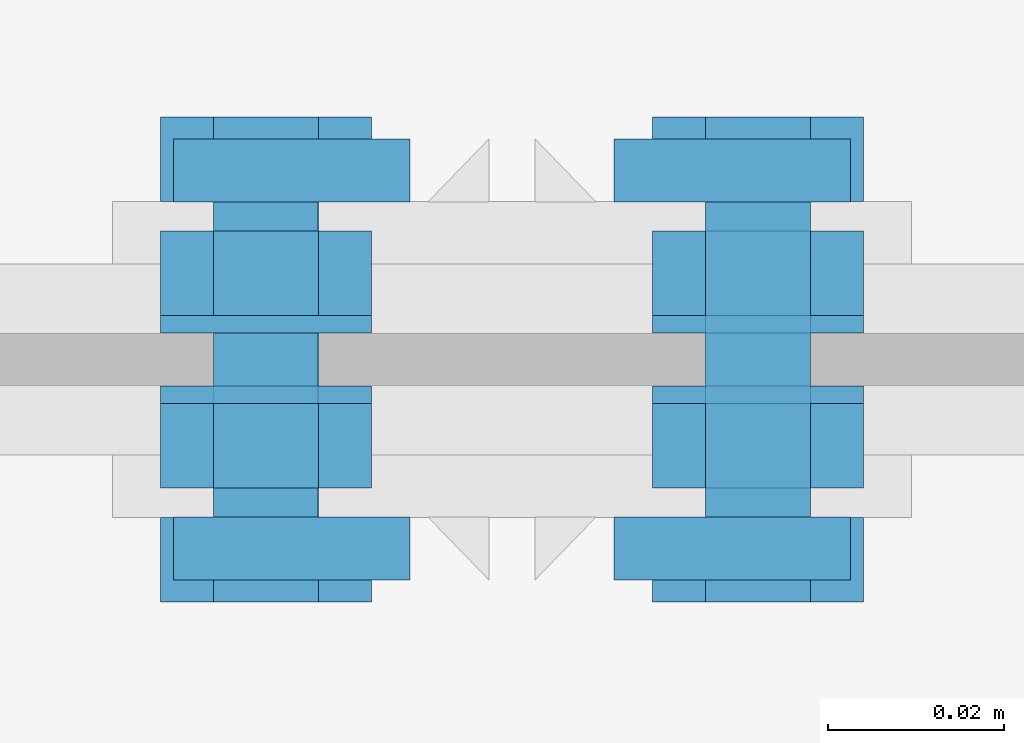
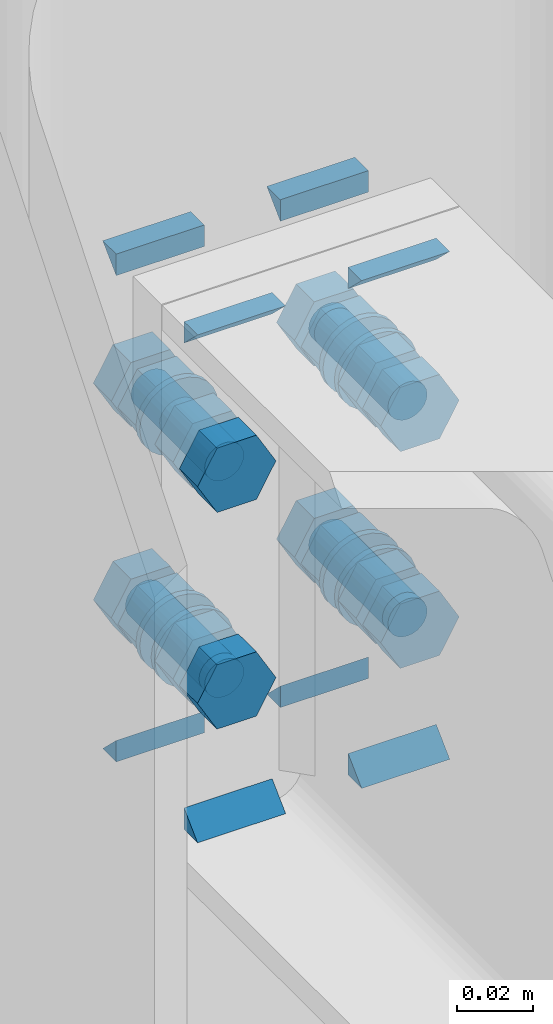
# One storey, part 71 of 251: 31 mechanical fasteners, 16 fasteners.
"""IFC4 building model written with IfcOpenShell, lengths in metres."""

from ifc_helpers import new_model, si_unit, frame, origin_with_axes, place, context, project, spatial, polyline, outline, extrude, type_object, element, save


model = new_model("IFC4")

# Units and contexts
model_context = context("Model", 3, precision=1e-05, world=origin_with_axes())
ifc_project = project(units=[si_unit("LENGTHUNIT", "METRE"), si_unit("AREAUNIT", "SQUARE_METRE"), si_unit("VOLUMEUNIT", "CUBIC_METRE"), si_unit("MASSUNIT", "GRAM", prefix="KILO"), si_unit("TIMEUNIT", "SECOND"), si_unit("PLANEANGLEUNIT", "RADIAN"), si_unit("SOLIDANGLEUNIT", "STERADIAN"), si_unit("THERMODYNAMICTEMPERATUREUNIT", "DEGREE_CELSIUS")], contexts=[model_context])

# Site, building, storey
placement_1 = place(None, origin_with_axes())
site = spatial("IfcSite", under=ifc_project, at=placement_1, Name="Italia", CompositionType="ELEMENT")
building = spatial("IfcBuilding", under=site, at=placement_1, Name="Deposito", CompositionType="ELEMENT")
storey = spatial("IfcBuildingStorey", under=building, at=placement_1, Name="Storey 0", CompositionType="ELEMENT", Elevation=0.0)

# Fasteners
fastener_type_1 = type_object("IfcFastenerType", Name="Collegamento -070_-069", PredefinedType="WELD")
placement_2 = place(placement_1, origin_with_axes())
fastener_1_placement = place(placement_2, origin_with_axes())
element("IfcFastener", 1, at=fastener_1_placement, inside=storey, type_object=fastener_type_1, Name="Collegamento -070_-069", context=model_context, shape_type="SweptSolid", body=[
    extrude(outline(polyline([(0.0, 0.0), (-0.00717354, 0.00695801), (0.0, 0.00695801), (0.0, 0.0)])), frame((6.01145, 4.98205, 6.89527), z_axis=(1.0, 0.0, 0.0), x_axis=(0.0, 1.0, 0.0)), (0.0, 0.0, 1.0), 0.0269499),
])
fastener_type_2 = type_object("IfcFastenerType", Name="Collegamento -070_-069", PredefinedType="WELD")
fastener_2_placement = place(placement_2, origin_with_axes())
element("IfcFastener", 2, at=fastener_2_placement, inside=storey, type_object=fastener_type_2, Name="Collegamento -070_-069", context=model_context, shape_type="SweptSolid", body=[
    extrude(outline(polyline([(0.0, 0.0), (0.00717354, -0.00695801), (0.0, -0.00695801), (0.0, 0.0)])), frame((6.0384, 4.98205, 6.74509), z_axis=(-1.0, 0.0, 0.0), x_axis=(0.0, -1.0, 0.0)), (0.0, 0.0, 1.0), 0.0269499),
])
fastener_type_3 = type_object("IfcFastenerType", Name="Collegamento -070_-069", PredefinedType="WELD")
fastener_3_placement = place(placement_2, origin_with_axes())
element("IfcFastener", 3, at=fastener_3_placement, inside=storey, type_object=fastener_type_3, Name="Collegamento -070_-069", context=model_context, shape_type="SweptSolid", body=[
    extrude(outline(polyline([(0.0, 0.0), (0.00717354, -0.00695801), (0.0, -0.00695801), (0.0, 0.0)])), frame((6.08855, 4.98205, 6.74509), z_axis=(-1.0, 0.0, 0.0), x_axis=(0.0, -1.0, 0.0)), (0.0, 0.0, 1.0), 0.0269499),
])
fastener_type_4 = type_object("IfcFastenerType", Name="Collegamento -070_-069", PredefinedType="WELD")
fastener_4_placement = place(placement_2, origin_with_axes())
element("IfcFastener", 4, at=fastener_4_placement, inside=storey, type_object=fastener_type_4, Name="Collegamento -070_-069", context=model_context, shape_type="SweptSolid", body=[
    extrude(outline(polyline([(0.0, 0.0), (-0.00717354, 0.00695801), (0.0, 0.00695801), (0.0, 0.0)])), frame((6.0616, 4.98205, 6.89527), z_axis=(1.0, 0.0, 0.0), x_axis=(0.0, 1.0, 0.0)), (0.0, 0.0, 1.0), 0.0269499),
])
fastener_type_5 = type_object("IfcFastenerType", Name="Collegamento -070_-069", PredefinedType="WELD")
fastener_5_placement = place(placement_2, origin_with_axes())
element("IfcFastener", 5, at=fastener_5_placement, inside=storey, type_object=fastener_type_5, Name="Collegamento -070_-069", context=model_context, shape_type="SweptSolid", body=[
    extrude(outline(polyline([(0.0, 0.0), (-0.00717354, 0.00695801), (0.0, 0.00695801), (0.0, 0.0)])), frame((6.01145, 4.98205, 6.89527), z_axis=(1.0, 0.0, 0.0), x_axis=(0.0, 1.0, 0.0)), (0.0, 0.0, 1.0), 0.0269499),
])
fastener_type_6 = type_object("IfcFastenerType", Name="Collegamento -070_-069", PredefinedType="WELD")
fastener_6_placement = place(placement_2, origin_with_axes())
element("IfcFastener", 6, at=fastener_6_placement, inside=storey, type_object=fastener_type_6, Name="Collegamento -070_-069", context=model_context, shape_type="SweptSolid", body=[
    extrude(outline(polyline([(0.0, 0.0), (0.00717354, -0.00695801), (0.0, -0.00695801), (0.0, 0.0)])), frame((6.0384, 4.98205, 6.74509), z_axis=(-1.0, 0.0, 0.0), x_axis=(0.0, -1.0, 0.0)), (0.0, 0.0, 1.0), 0.0269499),
])
fastener_type_7 = type_object("IfcFastenerType", Name="Collegamento -070_-069", PredefinedType="WELD")
fastener_7_placement = place(placement_2, origin_with_axes())
element("IfcFastener", 7, at=fastener_7_placement, inside=storey, type_object=fastener_type_7, Name="Collegamento -070_-069", context=model_context, shape_type="SweptSolid", body=[
    extrude(outline(polyline([(0.0, 0.0), (0.00717354, -0.00695801), (0.0, -0.00695801), (0.0, 0.0)])), frame((6.08855, 4.98205, 6.74509), z_axis=(-1.0, 0.0, 0.0), x_axis=(0.0, -1.0, 0.0)), (0.0, 0.0, 1.0), 0.0269499),
])
fastener_type_8 = type_object("IfcFastenerType", Name="Collegamento -070_-069", PredefinedType="WELD")
fastener_8_placement = place(placement_2, origin_with_axes())
element("IfcFastener", 8, at=fastener_8_placement, inside=storey, type_object=fastener_type_8, Name="Collegamento -070_-069", context=model_context, shape_type="SweptSolid", body=[
    extrude(outline(polyline([(0.0, 0.0), (-0.00717354, 0.00695801), (0.0, 0.00695801), (0.0, 0.0)])), frame((6.0616, 4.98205, 6.89527), z_axis=(1.0, 0.0, 0.0), x_axis=(0.0, 1.0, 0.0)), (0.0, 0.0, 1.0), 0.0269499),
])

# Mechanical fasteners
mechanical_fastener_type_1 = type_object("IfcMechanicalFastenerType", Name="Collegamento -070_-069", PredefinedType="BOLT")
mechanical_fastener_1_placement = place(placement_2, origin_with_axes())
element("IfcMechanicalFastener", 9, at=mechanical_fastener_1_placement, inside=storey, type_object=mechanical_fastener_type_1, Name="Collegamento -070_-069", NominalDiameter=0.0119999, context=model_context, shape_type="SweptSolid", body=[
    extrude(outline(polyline([(0.0, 0.0), (-0.0120001, 0.0), (-0.0180001, 0.0103927), (-0.0120001, 0.0207849), (0.0, 0.0207849), (0.00600004, 0.0103927), (0.0, 0.0)])), frame((6.028, 4.982, 6.77479), z_axis=(0.0, -1.0, 0.0), x_axis=(1.0, 0.0, 0.0)), (0.0, 0.0, 1.0), 0.00960016),
])
mechanical_fastener_type_2 = type_object("IfcMechanicalFastenerType", Name="Collegamento -070_-069", PredefinedType="BOLT")
mechanical_fastener_2_placement = place(placement_2, origin_with_axes())
element("IfcMechanicalFastener", 10, at=mechanical_fastener_2_placement, inside=storey, type_object=mechanical_fastener_type_2, Name="Collegamento -070_-069", NominalDiameter=0.012, context=model_context, shape_type="SweptSolid", body=[
    extrude(outline(polyline([(0.0, 0.0), (-0.000204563, -0.00155306), (-0.000803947, -0.00299978), (-0.00175762, -0.00424242), (-0.00300026, -0.00519609), (-0.00444698, -0.00579548), (-0.00600004, -0.00600004), (-0.0075531, -0.00579548), (-0.00899982, -0.00519609), (-0.0102425, -0.00424242), (-0.0111961, -0.00299978), (-0.0117955, -0.00155306), (-0.0120001, 0.0), (-0.0117955, 0.00155306), (-0.0111961, 0.00299978), (-0.0102425, 0.00424242), (-0.00899982, 0.00519609), (-0.0075531, 0.00579548), (-0.00600004, 0.00600004), (-0.00444698, 0.00579548), (-0.00300026, 0.00519609), (-0.00175762, 0.00424242), (-0.000803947, 0.00299978), (-0.000204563, 0.00155306), (0.0, 0.0)])), frame((6.028, 5.021, 6.78518), z_axis=(0.0, -1.0, 0.0), x_axis=(1.0, 0.0, 0.0)), (0.0, 0.0, 1.0), 0.039),
])
mechanical_fastener_type_3 = type_object("IfcMechanicalFastenerType", Name="Collegamento -070_-069", PredefinedType="BOLT")
mechanical_fastener_3_placement = place(placement_2, origin_with_axes())
element("IfcMechanicalFastener", 11, at=mechanical_fastener_3_placement, inside=storey, type_object=mechanical_fastener_type_3, Name="Collegamento -070_-069", NominalDiameter=0.0119999, context=model_context, shape_type="SweptSolid", body=[
    extrude(outline(polyline([(0.0, 0.0), (-0.0120001, 0.0), (-0.0180001, 0.0103927), (-0.0120001, 0.0207849), (0.0, 0.0207849), (0.00600004, 0.0103927), (0.0, 0.0)])), frame((6.028, 5.0146, 6.77479), z_axis=(0.0, -1.0, 0.0), x_axis=(1.0, 0.0, 0.0)), (0.0, 0.0, 1.0), 0.00960016),
])
mechanical_fastener_type_4 = type_object("IfcMechanicalFastenerType", Name="Collegamento -070_-069", PredefinedType="BOLT")
mechanical_fastener_4_placement = place(placement_2, origin_with_axes())
element("IfcMechanicalFastener", 12, at=mechanical_fastener_4_placement, inside=storey, type_object=mechanical_fastener_type_4, Name="Collegamento -070_-069", NominalDiameter=0.024, context=model_context, shape_type="SweptSolid", body=[
    extrude(outline(polyline([(0.0, 0.0), (-0.000409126, -0.00310564), (-0.00160789, -0.00600004), (-0.00351477, -0.00848532), (-0.00600004, -0.0103922), (-0.00889444, -0.011591), (-0.0120001, -0.0120001), (-0.0151057, -0.011591), (-0.0180001, -0.0103922), (-0.0204854, -0.00848532), (-0.0223923, -0.00600004), (-0.023591, -0.00310564), (-0.0240002, 0.0), (-0.023591, 0.00310564), (-0.0223923, 0.00600004), (-0.0204854, 0.00848532), (-0.0180001, 0.0103922), (-0.0151057, 0.011591), (-0.0120001, 0.0120001), (-0.00889444, 0.011591), (-0.00600004, 0.0103922), (-0.00351477, 0.00848532), (-0.00160789, 0.00600004), (-0.000409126, 0.00310564), (0.0, 0.0)])), frame((6.034, 5.005, 6.78518), z_axis=(0.0, -1.0, 0.0), x_axis=(1.0, 0.0, 0.0)), (0.0, 0.0, 1.0), 0.00199986),
])
mechanical_fastener_type_5 = type_object("IfcMechanicalFastenerType", Name="Collegamento -070_-069", PredefinedType="BOLT")
mechanical_fastener_5_placement = place(placement_2, origin_with_axes())
element("IfcMechanicalFastener", 13, at=mechanical_fastener_5_placement, inside=storey, type_object=mechanical_fastener_type_5, Name="Collegamento -070_-069", NominalDiameter=0.0119999, context=model_context, shape_type="SweptSolid", body=[
    extrude(outline(polyline([(0.0, 0.0), (-0.0120001, 0.0), (-0.0180001, 0.0103927), (-0.0120001, 0.0207849), (0.0, 0.0207849), (0.00600004, 0.0103927), (0.0, 0.0)])), frame((6.084, 4.982, 6.77479), z_axis=(0.0, -1.0, 0.0), x_axis=(1.0, 0.0, 0.0)), (0.0, 0.0, 1.0), 0.00960016),
])
mechanical_fastener_type_6 = type_object("IfcMechanicalFastenerType", Name="Collegamento -070_-069", PredefinedType="BOLT")
mechanical_fastener_6_placement = place(placement_2, origin_with_axes())
element("IfcMechanicalFastener", 14, at=mechanical_fastener_6_placement, inside=storey, type_object=mechanical_fastener_type_6, Name="Collegamento -070_-069", NominalDiameter=0.012, context=model_context, shape_type="SweptSolid", body=[
    extrude(outline(polyline([(0.0, 0.0), (-0.000204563, -0.00155306), (-0.000803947, -0.00299978), (-0.00175762, -0.00424242), (-0.00300026, -0.00519609), (-0.00444698, -0.00579548), (-0.00600004, -0.00600004), (-0.0075531, -0.00579548), (-0.00899982, -0.00519609), (-0.0102425, -0.00424242), (-0.0111961, -0.00299978), (-0.0117955, -0.00155306), (-0.0120001, 0.0), (-0.0117955, 0.00155306), (-0.0111961, 0.00299978), (-0.0102425, 0.00424242), (-0.00899982, 0.00519609), (-0.0075531, 0.00579548), (-0.00600004, 0.00600004), (-0.00444698, 0.00579548), (-0.00300026, 0.00519609), (-0.00175762, 0.00424242), (-0.000803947, 0.00299978), (-0.000204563, 0.00155306), (0.0, 0.0)])), frame((6.084, 5.021, 6.78518), z_axis=(0.0, -1.0, 0.0), x_axis=(1.0, 0.0, 0.0)), (0.0, 0.0, 1.0), 0.039),
])
mechanical_fastener_type_7 = type_object("IfcMechanicalFastenerType", Name="Collegamento -070_-069", PredefinedType="BOLT")
mechanical_fastener_7_placement = place(placement_2, origin_with_axes())
element("IfcMechanicalFastener", 15, at=mechanical_fastener_7_placement, inside=storey, type_object=mechanical_fastener_type_7, Name="Collegamento -070_-069", NominalDiameter=0.0119999, context=model_context, shape_type="SweptSolid", body=[
    extrude(outline(polyline([(0.0, 0.0), (-0.0120001, 0.0), (-0.0180001, 0.0103927), (-0.0120001, 0.0207849), (0.0, 0.0207849), (0.00600004, 0.0103927), (0.0, 0.0)])), frame((6.084, 5.0146, 6.77479), z_axis=(0.0, -1.0, 0.0), x_axis=(1.0, 0.0, 0.0)), (0.0, 0.0, 1.0), 0.00960016),
])
mechanical_fastener_type_8 = type_object("IfcMechanicalFastenerType", Name="Collegamento -070_-069", PredefinedType="BOLT")
mechanical_fastener_8_placement = place(placement_2, origin_with_axes())
element("IfcMechanicalFastener", 16, at=mechanical_fastener_8_placement, inside=storey, type_object=mechanical_fastener_type_8, Name="Collegamento -070_-069", NominalDiameter=0.024, context=model_context, shape_type="SweptSolid", body=[
    extrude(outline(polyline([(0.0, 0.0), (-0.000409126, -0.00310564), (-0.00160789, -0.00600004), (-0.00351477, -0.00848532), (-0.00600004, -0.0103922), (-0.00889444, -0.011591), (-0.0120001, -0.0120001), (-0.0151057, -0.011591), (-0.0180001, -0.0103922), (-0.0204854, -0.00848532), (-0.0223923, -0.00600004), (-0.023591, -0.00310564), (-0.0240002, 0.0), (-0.023591, 0.00310564), (-0.0223923, 0.00600004), (-0.0204854, 0.00848532), (-0.0180001, 0.0103922), (-0.0151057, 0.011591), (-0.0120001, 0.0120001), (-0.00889444, 0.011591), (-0.00600004, 0.0103922), (-0.00351477, 0.00848532), (-0.00160789, 0.00600004), (-0.000409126, 0.00310564), (0.0, 0.0)])), frame((6.09, 5.005, 6.78518), z_axis=(0.0, -1.0, 0.0), x_axis=(1.0, 0.0, 0.0)), (0.0, 0.0, 1.0), 0.00199986),
])
mechanical_fastener_type_9 = type_object("IfcMechanicalFastenerType", Name="Collegamento -070_-069", PredefinedType="BOLT")
mechanical_fastener_9_placement = place(placement_2, origin_with_axes())
element("IfcMechanicalFastener", 17, at=mechanical_fastener_9_placement, inside=storey, type_object=mechanical_fastener_type_9, Name="Collegamento -070_-069", NominalDiameter=0.0119999, context=model_context, shape_type="SweptSolid", body=[
    extrude(outline(polyline([(0.0, 0.0), (-0.0120001, 0.0), (-0.0180001, 0.0103922), (-0.0120001, 0.0207849), (0.0, 0.0207849), (0.00600004, 0.0103922), (0.0, 0.0)])), frame((6.028, 4.982, 6.84479), z_axis=(0.0, -1.0, 0.0), x_axis=(1.0, 0.0, 0.0)), (0.0, 0.0, 1.0), 0.00960016),
])
mechanical_fastener_type_10 = type_object("IfcMechanicalFastenerType", Name="Collegamento -070_-069", PredefinedType="BOLT")
mechanical_fastener_10_placement = place(placement_2, origin_with_axes())
element("IfcMechanicalFastener", 18, at=mechanical_fastener_10_placement, inside=storey, type_object=mechanical_fastener_type_10, Name="Collegamento -070_-069", NominalDiameter=0.012, context=model_context, shape_type="SweptSolid", body=[
    extrude(outline(polyline([(0.0, 0.0), (-0.000204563, -0.00155306), (-0.000803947, -0.00299978), (-0.00175762, -0.00424242), (-0.00300026, -0.00519609), (-0.00444698, -0.00579548), (-0.00600004, -0.00600004), (-0.0075531, -0.00579548), (-0.00899982, -0.00519609), (-0.0102425, -0.00424242), (-0.0111961, -0.00299978), (-0.0117955, -0.00155306), (-0.0120001, 0.0), (-0.0117955, 0.00155306), (-0.0111961, 0.00299978), (-0.0102425, 0.00424242), (-0.00899982, 0.00519609), (-0.0075531, 0.00579548), (-0.00600004, 0.00600004), (-0.00444698, 0.00579548), (-0.00300026, 0.00519609), (-0.00175762, 0.00424242), (-0.000803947, 0.00299978), (-0.000204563, 0.00155306), (0.0, 0.0)])), frame((6.028, 5.021, 6.85518), z_axis=(0.0, -1.0, 0.0), x_axis=(1.0, 0.0, 0.0)), (0.0, 0.0, 1.0), 0.039),
])
mechanical_fastener_type_11 = type_object("IfcMechanicalFastenerType", Name="Collegamento -070_-069", PredefinedType="BOLT")
mechanical_fastener_11_placement = place(placement_2, origin_with_axes())
element("IfcMechanicalFastener", 19, at=mechanical_fastener_11_placement, inside=storey, type_object=mechanical_fastener_type_11, Name="Collegamento -070_-069", NominalDiameter=0.0119999, context=model_context, shape_type="SweptSolid", body=[
    extrude(outline(polyline([(0.0, 0.0), (-0.0120001, 0.0), (-0.0180001, 0.0103922), (-0.0120001, 0.0207849), (0.0, 0.0207849), (0.00600004, 0.0103922), (0.0, 0.0)])), frame((6.028, 5.0146, 6.84479), z_axis=(0.0, -1.0, 0.0), x_axis=(1.0, 0.0, 0.0)), (0.0, 0.0, 1.0), 0.00960016),
])
mechanical_fastener_type_12 = type_object("IfcMechanicalFastenerType", Name="Collegamento -070_-069", PredefinedType="BOLT")
mechanical_fastener_12_placement = place(placement_2, origin_with_axes())
element("IfcMechanicalFastener", 20, at=mechanical_fastener_12_placement, inside=storey, type_object=mechanical_fastener_type_12, Name="Collegamento -070_-069", NominalDiameter=0.024, context=model_context, shape_type="SweptSolid", body=[
    extrude(outline(polyline([(0.0, 0.0), (-0.000409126, -0.00310564), (-0.00160789, -0.00600004), (-0.00351477, -0.00848532), (-0.00600004, -0.0103922), (-0.00889444, -0.011591), (-0.0120001, -0.0120001), (-0.0151057, -0.011591), (-0.0180001, -0.0103922), (-0.0204854, -0.00848532), (-0.0223923, -0.00600004), (-0.023591, -0.00310564), (-0.0240002, 0.0), (-0.023591, 0.00310564), (-0.0223923, 0.00600004), (-0.0204854, 0.00848532), (-0.0180001, 0.0103922), (-0.0151057, 0.011591), (-0.0120001, 0.0120001), (-0.00889444, 0.011591), (-0.00600004, 0.0103922), (-0.00351477, 0.00848532), (-0.00160789, 0.00600004), (-0.000409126, 0.00310564), (0.0, 0.0)])), frame((6.034, 5.005, 6.85518), z_axis=(0.0, -1.0, 0.0), x_axis=(1.0, 0.0, 0.0)), (0.0, 0.0, 1.0), 0.00199986),
])
mechanical_fastener_type_13 = type_object("IfcMechanicalFastenerType", Name="Collegamento -070_-069", PredefinedType="BOLT")
mechanical_fastener_13_placement = place(placement_2, origin_with_axes())
element("IfcMechanicalFastener", 21, at=mechanical_fastener_13_placement, inside=storey, type_object=mechanical_fastener_type_13, Name="Collegamento -070_-069", NominalDiameter=0.0119999, context=model_context, shape_type="SweptSolid", body=[
    extrude(outline(polyline([(0.0, 0.0), (-0.0120001, 0.0), (-0.0180001, 0.0103922), (-0.0120001, 0.0207849), (0.0, 0.0207849), (0.00600004, 0.0103922), (0.0, 0.0)])), frame((6.084, 4.982, 6.84479), z_axis=(0.0, -1.0, 0.0), x_axis=(1.0, 0.0, 0.0)), (0.0, 0.0, 1.0), 0.00960016),
])
mechanical_fastener_type_14 = type_object("IfcMechanicalFastenerType", Name="Collegamento -070_-069", PredefinedType="BOLT")
mechanical_fastener_14_placement = place(placement_2, origin_with_axes())
element("IfcMechanicalFastener", 22, at=mechanical_fastener_14_placement, inside=storey, type_object=mechanical_fastener_type_14, Name="Collegamento -070_-069", NominalDiameter=0.012, context=model_context, shape_type="SweptSolid", body=[
    extrude(outline(polyline([(0.0, 0.0), (-0.000204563, -0.00155306), (-0.000803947, -0.00299978), (-0.00175762, -0.00424242), (-0.00300026, -0.00519609), (-0.00444698, -0.00579548), (-0.00600004, -0.00600004), (-0.0075531, -0.00579548), (-0.00899982, -0.00519609), (-0.0102425, -0.00424242), (-0.0111961, -0.00299978), (-0.0117955, -0.00155306), (-0.0120001, 0.0), (-0.0117955, 0.00155306), (-0.0111961, 0.00299978), (-0.0102425, 0.00424242), (-0.00899982, 0.00519609), (-0.0075531, 0.00579548), (-0.00600004, 0.00600004), (-0.00444698, 0.00579548), (-0.00300026, 0.00519609), (-0.00175762, 0.00424242), (-0.000803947, 0.00299978), (-0.000204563, 0.00155306), (0.0, 0.0)])), frame((6.084, 5.021, 6.85518), z_axis=(0.0, -1.0, 0.0), x_axis=(1.0, 0.0, 0.0)), (0.0, 0.0, 1.0), 0.039),
])
mechanical_fastener_type_15 = type_object("IfcMechanicalFastenerType", Name="Collegamento -070_-069", PredefinedType="BOLT")
mechanical_fastener_15_placement = place(placement_2, origin_with_axes())
element("IfcMechanicalFastener", 23, at=mechanical_fastener_15_placement, inside=storey, type_object=mechanical_fastener_type_15, Name="Collegamento -070_-069", NominalDiameter=0.0119999, context=model_context, shape_type="SweptSolid", body=[
    extrude(outline(polyline([(0.0, 0.0), (-0.0120001, 0.0), (-0.0180001, 0.0103922), (-0.0120001, 0.0207849), (0.0, 0.0207849), (0.00600004, 0.0103922), (0.0, 0.0)])), frame((6.084, 5.0146, 6.84479), z_axis=(0.0, -1.0, 0.0), x_axis=(1.0, 0.0, 0.0)), (0.0, 0.0, 1.0), 0.00960016),
])
mechanical_fastener_type_16 = type_object("IfcMechanicalFastenerType", Name="Collegamento -070_-069", PredefinedType="BOLT")
mechanical_fastener_16_placement = place(placement_2, origin_with_axes())
element("IfcMechanicalFastener", 24, at=mechanical_fastener_16_placement, inside=storey, type_object=mechanical_fastener_type_16, Name="Collegamento -070_-069", NominalDiameter=0.024, context=model_context, shape_type="SweptSolid", body=[
    extrude(outline(polyline([(0.0, 0.0), (-0.000409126, -0.00310564), (-0.00160789, -0.00600004), (-0.00351477, -0.00848532), (-0.00600004, -0.0103922), (-0.00889444, -0.011591), (-0.0120001, -0.0120001), (-0.0151057, -0.011591), (-0.0180001, -0.0103922), (-0.0204854, -0.00848532), (-0.0223923, -0.00600004), (-0.023591, -0.00310564), (-0.0240002, 0.0), (-0.023591, 0.00310564), (-0.0223923, 0.00600004), (-0.0204854, 0.00848532), (-0.0180001, 0.0103922), (-0.0151057, 0.011591), (-0.0120001, 0.0120001), (-0.00889444, 0.011591), (-0.00600004, 0.0103922), (-0.00351477, 0.00848532), (-0.00160789, 0.00600004), (-0.000409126, 0.00310564), (0.0, 0.0)])), frame((6.09, 5.005, 6.85518), z_axis=(0.0, -1.0, 0.0), x_axis=(1.0, 0.0, 0.0)), (0.0, 0.0, 1.0), 0.00199986),
])

# Fasteners
fastener_type_9 = type_object("IfcFastenerType", Name="Collegamento -070_-071", PredefinedType="WELD")
fastener_9_placement = place(placement_2, origin_with_axes())
element("IfcFastener", 25, at=fastener_9_placement, inside=storey, type_object=fastener_type_9, Name="Collegamento -070_-071", context=model_context, shape_type="SweptSolid", body=[
    extrude(outline(polyline([(0.0, 0.0), (-0.00717354, 0.00695801), (0.0, 0.00695801), (0.0, 0.0)])), frame((6.0384, 5.01795, 6.89527), z_axis=(-1.0, 0.0, 0.0), x_axis=(0.0, -1.0, 0.0)), (0.0, 0.0, 1.0), 0.0269499),
])
fastener_type_10 = type_object("IfcFastenerType", Name="Collegamento -070_-071", PredefinedType="WELD")
fastener_10_placement = place(placement_2, origin_with_axes())
element("IfcFastener", 26, at=fastener_10_placement, inside=storey, type_object=fastener_type_10, Name="Collegamento -070_-071", context=model_context, shape_type="SweptSolid", body=[
    extrude(outline(polyline([(0.0, 0.0), (0.00717354, -0.00695801), (0.0, -0.00695801), (0.0, 0.0)])), frame((6.01145, 5.01795, 6.74509), z_axis=(1.0, 0.0, 0.0), x_axis=(0.0, 1.0, 0.0)), (0.0, 0.0, 1.0), 0.0269499),
])
fastener_type_11 = type_object("IfcFastenerType", Name="Collegamento -070_-071", PredefinedType="WELD")
fastener_11_placement = place(placement_2, origin_with_axes())
element("IfcFastener", 27, at=fastener_11_placement, inside=storey, type_object=fastener_type_11, Name="Collegamento -070_-071", context=model_context, shape_type="SweptSolid", body=[
    extrude(outline(polyline([(0.0, 0.0), (0.00717354, -0.00695801), (0.0, -0.00695801), (0.0, 0.0)])), frame((6.0616, 5.01795, 6.74509), z_axis=(1.0, 0.0, 0.0), x_axis=(0.0, 1.0, 0.0)), (0.0, 0.0, 1.0), 0.0269499),
])
fastener_type_12 = type_object("IfcFastenerType", Name="Collegamento -070_-071", PredefinedType="WELD")
fastener_12_placement = place(placement_2, origin_with_axes())
element("IfcFastener", 28, at=fastener_12_placement, inside=storey, type_object=fastener_type_12, Name="Collegamento -070_-071", context=model_context, shape_type="SweptSolid", body=[
    extrude(outline(polyline([(0.0, 0.0), (-0.00717354, 0.00695801), (0.0, 0.00695801), (0.0, 0.0)])), frame((6.08855, 5.01795, 6.89527), z_axis=(-1.0, 0.0, 0.0), x_axis=(0.0, -1.0, 0.0)), (0.0, 0.0, 1.0), 0.0269499),
])
fastener_type_13 = type_object("IfcFastenerType", Name="Collegamento -070_-071", PredefinedType="WELD")
fastener_13_placement = place(placement_2, origin_with_axes())
element("IfcFastener", 29, at=fastener_13_placement, inside=storey, type_object=fastener_type_13, Name="Collegamento -070_-071", context=model_context, shape_type="SweptSolid", body=[
    extrude(outline(polyline([(0.0, 0.0), (-0.00717354, 0.00695801), (0.0, 0.00695801), (0.0, 0.0)])), frame((6.0384, 5.01795, 6.89527), z_axis=(-1.0, 0.0, 0.0), x_axis=(0.0, -1.0, 0.0)), (0.0, 0.0, 1.0), 0.0269499),
])
fastener_type_14 = type_object("IfcFastenerType", Name="Collegamento -070_-071", PredefinedType="WELD")
fastener_14_placement = place(placement_2, origin_with_axes())
element("IfcFastener", 30, at=fastener_14_placement, inside=storey, type_object=fastener_type_14, Name="Collegamento -070_-071", context=model_context, shape_type="SweptSolid", body=[
    extrude(outline(polyline([(0.0, 0.0), (0.00717354, -0.00695801), (0.0, -0.00695801), (0.0, 0.0)])), frame((6.01145, 5.01795, 6.74509), z_axis=(1.0, 0.0, 0.0), x_axis=(0.0, 1.0, 0.0)), (0.0, 0.0, 1.0), 0.0269499),
])
fastener_type_15 = type_object("IfcFastenerType", Name="Collegamento -070_-071", PredefinedType="WELD")
fastener_15_placement = place(placement_2, origin_with_axes())
element("IfcFastener", 31, at=fastener_15_placement, inside=storey, type_object=fastener_type_15, Name="Collegamento -070_-071", context=model_context, shape_type="SweptSolid", body=[
    extrude(outline(polyline([(0.0, 0.0), (0.00717354, -0.00695801), (0.0, -0.00695801), (0.0, 0.0)])), frame((6.0616, 5.01795, 6.74509), z_axis=(1.0, 0.0, 0.0), x_axis=(0.0, 1.0, 0.0)), (0.0, 0.0, 1.0), 0.0269499),
])
fastener_type_16 = type_object("IfcFastenerType", Name="Collegamento -070_-071", PredefinedType="WELD")
fastener_16_placement = place(placement_2, origin_with_axes())
element("IfcFastener", 32, at=fastener_16_placement, inside=storey, type_object=fastener_type_16, Name="Collegamento -070_-071", context=model_context, shape_type="SweptSolid", body=[
    extrude(outline(polyline([(0.0, 0.0), (-0.00717354, 0.00695801), (0.0, 0.00695801), (0.0, 0.0)])), frame((6.08855, 5.01795, 6.89527), z_axis=(-1.0, 0.0, 0.0), x_axis=(0.0, -1.0, 0.0)), (0.0, 0.0, 1.0), 0.0269499),
])

# Mechanical fasteners
mechanical_fastener_type_17 = type_object("IfcMechanicalFastenerType", Name="Collegamento -070_-071", PredefinedType="BOLT")
mechanical_fastener_17_placement = place(placement_2, origin_with_axes())
element("IfcMechanicalFastener", 33, at=mechanical_fastener_17_placement, inside=storey, type_object=mechanical_fastener_type_17, Name="Collegamento -070_-071", NominalDiameter=0.0119999, context=model_context, shape_type="SweptSolid", body=[
    extrude(outline(polyline([(0.0, 0.0), (-0.0120001, 0.0), (-0.0180001, 0.0103927), (-0.0120001, 0.0207849), (0.0, 0.0207849), (0.00600004, 0.0103927), (0.0, 0.0)])), frame((6.072, 5.018, 6.77479), z_axis=(0.0, 1.0, 0.0), x_axis=(-1.0, 0.0, 0.0)), (0.0, 0.0, 1.0), 0.00960016),
])
mechanical_fastener_type_18 = type_object("IfcMechanicalFastenerType", Name="Collegamento -070_-071", PredefinedType="BOLT")
mechanical_fastener_18_placement = place(placement_2, origin_with_axes())
element("IfcMechanicalFastener", 34, at=mechanical_fastener_18_placement, inside=storey, type_object=mechanical_fastener_type_18, Name="Collegamento -070_-071", NominalDiameter=0.012, context=model_context, shape_type="SweptSolid", body=[
    extrude(outline(polyline([(0.0, 0.0), (-0.000204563, -0.00155306), (-0.000803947, -0.00299978), (-0.00175762, -0.00424242), (-0.00300026, -0.00519609), (-0.00444698, -0.00579548), (-0.00600004, -0.00600004), (-0.0075531, -0.00579548), (-0.00899982, -0.00519609), (-0.0102425, -0.00424242), (-0.0111961, -0.00299978), (-0.0117955, -0.00155306), (-0.0120001, 0.0), (-0.0117955, 0.00155306), (-0.0111961, 0.00299978), (-0.0102425, 0.00424242), (-0.00899982, 0.00519609), (-0.0075531, 0.00579548), (-0.00600004, 0.00600004), (-0.00444698, 0.00579548), (-0.00300026, 0.00519609), (-0.00175762, 0.00424242), (-0.000803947, 0.00299978), (-0.000204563, 0.00155306), (0.0, 0.0)])), frame((6.072, 4.979, 6.78518), z_axis=(0.0, 1.0, 0.0), x_axis=(-1.0, 0.0, 0.0)), (0.0, 0.0, 1.0), 0.039),
])
mechanical_fastener_type_19 = type_object("IfcMechanicalFastenerType", Name="Collegamento -070_-071", PredefinedType="BOLT")
mechanical_fastener_19_placement = place(placement_2, origin_with_axes())
element("IfcMechanicalFastener", 35, at=mechanical_fastener_19_placement, inside=storey, type_object=mechanical_fastener_type_19, Name="Collegamento -070_-071", NominalDiameter=0.0119999, context=model_context, shape_type="SweptSolid", body=[
    extrude(outline(polyline([(0.0, 0.0), (-0.0120001, 0.0), (-0.0180001, 0.0103927), (-0.0120001, 0.0207849), (0.0, 0.0207849), (0.00600004, 0.0103927), (0.0, 0.0)])), frame((6.072, 4.9854, 6.77479), z_axis=(0.0, 1.0, 0.0), x_axis=(-1.0, 0.0, 0.0)), (0.0, 0.0, 1.0), 0.00960016),
])
mechanical_fastener_type_20 = type_object("IfcMechanicalFastenerType", Name="Collegamento -070_-071", PredefinedType="BOLT")
mechanical_fastener_20_placement = place(placement_2, origin_with_axes())
element("IfcMechanicalFastener", 36, at=mechanical_fastener_20_placement, inside=storey, type_object=mechanical_fastener_type_20, Name="Collegamento -070_-071", NominalDiameter=0.024, context=model_context, shape_type="SweptSolid", body=[
    extrude(outline(polyline([(0.0, 0.0), (-0.000409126, -0.00310564), (-0.00160789, -0.00600004), (-0.00351477, -0.00848532), (-0.00600004, -0.0103922), (-0.00889444, -0.011591), (-0.0120001, -0.0120001), (-0.0151057, -0.011591), (-0.0180001, -0.0103922), (-0.0204854, -0.00848532), (-0.0223923, -0.00600004), (-0.023591, -0.00310564), (-0.0240002, 0.0), (-0.023591, 0.00310564), (-0.0223923, 0.00600004), (-0.0204854, 0.00848532), (-0.0180001, 0.0103922), (-0.0151057, 0.011591), (-0.0120001, 0.0120001), (-0.00889444, 0.011591), (-0.00600004, 0.0103922), (-0.00351477, 0.00848532), (-0.00160789, 0.00600004), (-0.000409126, 0.00310564), (0.0, 0.0)])), frame((6.066, 4.995, 6.78518), z_axis=(0.0, 1.0, 0.0), x_axis=(-1.0, 0.0, 0.0)), (0.0, 0.0, 1.0), 0.00199986),
])
mechanical_fastener_type_21 = type_object("IfcMechanicalFastenerType", Name="Collegamento -070_-071", PredefinedType="BOLT")
mechanical_fastener_21_placement = place(placement_2, origin_with_axes())
element("IfcMechanicalFastener", 37, at=mechanical_fastener_21_placement, inside=storey, type_object=mechanical_fastener_type_21, Name="Collegamento -070_-071", NominalDiameter=0.0119999, context=model_context, shape_type="SweptSolid", body=[
    extrude(outline(polyline([(0.0, 0.0), (-0.0120001, 0.0), (-0.0180001, 0.0103927), (-0.0120001, 0.0207849), (0.0, 0.0207849), (0.00600004, 0.0103927), (0.0, 0.0)])), frame((6.016, 5.018, 6.77479), z_axis=(0.0, 1.0, 0.0), x_axis=(-1.0, 0.0, 0.0)), (0.0, 0.0, 1.0), 0.00960016),
])
mechanical_fastener_type_22 = type_object("IfcMechanicalFastenerType", Name="Collegamento -070_-071", PredefinedType="BOLT")
mechanical_fastener_22_placement = place(placement_2, origin_with_axes())
element("IfcMechanicalFastener", 38, at=mechanical_fastener_22_placement, inside=storey, type_object=mechanical_fastener_type_22, Name="Collegamento -070_-071", NominalDiameter=0.012, context=model_context, shape_type="SweptSolid", body=[
    extrude(outline(polyline([(0.0, 0.0), (-0.000204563, -0.00155306), (-0.000803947, -0.00299978), (-0.00175762, -0.00424242), (-0.00300026, -0.00519609), (-0.00444698, -0.00579548), (-0.00600004, -0.00600004), (-0.0075531, -0.00579548), (-0.00899982, -0.00519609), (-0.0102425, -0.00424242), (-0.0111961, -0.00299978), (-0.0117955, -0.00155306), (-0.0120001, 0.0), (-0.0117955, 0.00155306), (-0.0111961, 0.00299978), (-0.0102425, 0.00424242), (-0.00899982, 0.00519609), (-0.0075531, 0.00579548), (-0.00600004, 0.00600004), (-0.00444698, 0.00579548), (-0.00300026, 0.00519609), (-0.00175762, 0.00424242), (-0.000803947, 0.00299978), (-0.000204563, 0.00155306), (0.0, 0.0)])), frame((6.016, 4.979, 6.78518), z_axis=(0.0, 1.0, 0.0), x_axis=(-1.0, 0.0, 0.0)), (0.0, 0.0, 1.0), 0.039),
])
mechanical_fastener_type_23 = type_object("IfcMechanicalFastenerType", Name="Collegamento -070_-071", PredefinedType="BOLT")
mechanical_fastener_23_placement = place(placement_2, origin_with_axes())
element("IfcMechanicalFastener", 39, at=mechanical_fastener_23_placement, inside=storey, type_object=mechanical_fastener_type_23, Name="Collegamento -070_-071", NominalDiameter=0.0119999, context=model_context, shape_type="SweptSolid", body=[
    extrude(outline(polyline([(0.0, 0.0), (-0.0120001, 0.0), (-0.0180001, 0.0103927), (-0.0120001, 0.0207849), (0.0, 0.0207849), (0.00600004, 0.0103927), (0.0, 0.0)])), frame((6.016, 4.9854, 6.77479), z_axis=(0.0, 1.0, 0.0), x_axis=(-1.0, 0.0, 0.0)), (0.0, 0.0, 1.0), 0.00960016),
])
mechanical_fastener_type_24 = type_object("IfcMechanicalFastenerType", Name="Collegamento -070_-071", PredefinedType="BOLT")
mechanical_fastener_24_placement = place(placement_2, origin_with_axes())
element("IfcMechanicalFastener", 40, at=mechanical_fastener_24_placement, inside=storey, type_object=mechanical_fastener_type_24, Name="Collegamento -070_-071", NominalDiameter=0.024, context=model_context, shape_type="SweptSolid", body=[
    extrude(outline(polyline([(0.0, 0.0), (-0.000409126, -0.00310564), (-0.00160789, -0.00600004), (-0.00351477, -0.00848532), (-0.00600004, -0.0103922), (-0.00889444, -0.011591), (-0.0120001, -0.0120001), (-0.0151057, -0.011591), (-0.0180001, -0.0103922), (-0.0204854, -0.00848532), (-0.0223923, -0.00600004), (-0.023591, -0.00310564), (-0.0240002, 0.0), (-0.023591, 0.00310564), (-0.0223923, 0.00600004), (-0.0204854, 0.00848532), (-0.0180001, 0.0103922), (-0.0151057, 0.011591), (-0.0120001, 0.0120001), (-0.00889444, 0.011591), (-0.00600004, 0.0103922), (-0.00351477, 0.00848532), (-0.00160789, 0.00600004), (-0.000409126, 0.00310564), (0.0, 0.0)])), frame((6.01, 4.995, 6.78518), z_axis=(0.0, 1.0, 0.0), x_axis=(-1.0, 0.0, 0.0)), (0.0, 0.0, 1.0), 0.00199986),
])
mechanical_fastener_type_25 = type_object("IfcMechanicalFastenerType", Name="Collegamento -070_-071", PredefinedType="BOLT")
mechanical_fastener_25_placement = place(placement_2, origin_with_axes())
element("IfcMechanicalFastener", 41, at=mechanical_fastener_25_placement, inside=storey, type_object=mechanical_fastener_type_25, Name="Collegamento -070_-071", NominalDiameter=0.0119999, context=model_context, shape_type="SweptSolid", body=[
    extrude(outline(polyline([(0.0, 0.0), (-0.0120001, 0.0), (-0.0180001, 0.0103922), (-0.0120001, 0.0207849), (0.0, 0.0207849), (0.00600004, 0.0103922), (0.0, 0.0)])), frame((6.072, 5.018, 6.84479), z_axis=(0.0, 1.0, 0.0), x_axis=(-1.0, 0.0, 0.0)), (0.0, 0.0, 1.0), 0.00960016),
])
mechanical_fastener_type_26 = type_object("IfcMechanicalFastenerType", Name="Collegamento -070_-071", PredefinedType="BOLT")
mechanical_fastener_26_placement = place(placement_2, origin_with_axes())
element("IfcMechanicalFastener", 42, at=mechanical_fastener_26_placement, inside=storey, type_object=mechanical_fastener_type_26, Name="Collegamento -070_-071", NominalDiameter=0.012, context=model_context, shape_type="SweptSolid", body=[
    extrude(outline(polyline([(0.0, 0.0), (-0.000204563, -0.00155306), (-0.000803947, -0.00299978), (-0.00175762, -0.00424242), (-0.00300026, -0.00519609), (-0.00444698, -0.00579548), (-0.00600004, -0.00600004), (-0.0075531, -0.00579548), (-0.00899982, -0.00519609), (-0.0102425, -0.00424242), (-0.0111961, -0.00299978), (-0.0117955, -0.00155306), (-0.0120001, 0.0), (-0.0117955, 0.00155306), (-0.0111961, 0.00299978), (-0.0102425, 0.00424242), (-0.00899982, 0.00519609), (-0.0075531, 0.00579548), (-0.00600004, 0.00600004), (-0.00444698, 0.00579548), (-0.00300026, 0.00519609), (-0.00175762, 0.00424242), (-0.000803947, 0.00299978), (-0.000204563, 0.00155306), (0.0, 0.0)])), frame((6.072, 4.979, 6.85518), z_axis=(0.0, 1.0, 0.0), x_axis=(-1.0, 0.0, 0.0)), (0.0, 0.0, 1.0), 0.039),
])
mechanical_fastener_type_27 = type_object("IfcMechanicalFastenerType", Name="Collegamento -070_-071", PredefinedType="BOLT")
mechanical_fastener_27_placement = place(placement_2, origin_with_axes())
element("IfcMechanicalFastener", 43, at=mechanical_fastener_27_placement, inside=storey, type_object=mechanical_fastener_type_27, Name="Collegamento -070_-071", NominalDiameter=0.0119999, context=model_context, shape_type="SweptSolid", body=[
    extrude(outline(polyline([(0.0, 0.0), (-0.0120001, 0.0), (-0.0180001, 0.0103922), (-0.0120001, 0.0207849), (0.0, 0.0207849), (0.00600004, 0.0103922), (0.0, 0.0)])), frame((6.072, 4.9854, 6.84479), z_axis=(0.0, 1.0, 0.0), x_axis=(-1.0, 0.0, 0.0)), (0.0, 0.0, 1.0), 0.00960016),
])
mechanical_fastener_type_28 = type_object("IfcMechanicalFastenerType", Name="Collegamento -070_-071", PredefinedType="BOLT")
mechanical_fastener_28_placement = place(placement_2, origin_with_axes())
element("IfcMechanicalFastener", 44, at=mechanical_fastener_28_placement, inside=storey, type_object=mechanical_fastener_type_28, Name="Collegamento -070_-071", NominalDiameter=0.024, context=model_context, shape_type="SweptSolid", body=[
    extrude(outline(polyline([(0.0, 0.0), (-0.000409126, -0.00310564), (-0.00160789, -0.00600004), (-0.00351477, -0.00848532), (-0.00600004, -0.0103922), (-0.00889444, -0.011591), (-0.0120001, -0.0120001), (-0.0151057, -0.011591), (-0.0180001, -0.0103922), (-0.0204854, -0.00848532), (-0.0223923, -0.00600004), (-0.023591, -0.00310564), (-0.0240002, 0.0), (-0.023591, 0.00310564), (-0.0223923, 0.00600004), (-0.0204854, 0.00848532), (-0.0180001, 0.0103922), (-0.0151057, 0.011591), (-0.0120001, 0.0120001), (-0.00889444, 0.011591), (-0.00600004, 0.0103922), (-0.00351477, 0.00848532), (-0.00160789, 0.00600004), (-0.000409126, 0.00310564), (0.0, 0.0)])), frame((6.066, 4.995, 6.85518), z_axis=(0.0, 1.0, 0.0), x_axis=(-1.0, 0.0, 0.0)), (0.0, 0.0, 1.0), 0.00199986),
])
mechanical_fastener_type_29 = type_object("IfcMechanicalFastenerType", Name="Collegamento -070_-071", PredefinedType="BOLT")
mechanical_fastener_29_placement = place(placement_2, origin_with_axes())
element("IfcMechanicalFastener", 45, at=mechanical_fastener_29_placement, inside=storey, type_object=mechanical_fastener_type_29, Name="Collegamento -070_-071", NominalDiameter=0.0119999, context=model_context, shape_type="SweptSolid", body=[
    extrude(outline(polyline([(0.0, 0.0), (-0.0120001, 0.0), (-0.0180001, 0.0103922), (-0.0120001, 0.0207849), (0.0, 0.0207849), (0.00600004, 0.0103922), (0.0, 0.0)])), frame((6.016, 5.018, 6.84479), z_axis=(0.0, 1.0, 0.0), x_axis=(-1.0, 0.0, 0.0)), (0.0, 0.0, 1.0), 0.00960016),
])
mechanical_fastener_type_30 = type_object("IfcMechanicalFastenerType", Name="Collegamento -070_-071", PredefinedType="BOLT")
mechanical_fastener_30_placement = place(placement_2, origin_with_axes())
element("IfcMechanicalFastener", 46, at=mechanical_fastener_30_placement, inside=storey, type_object=mechanical_fastener_type_30, Name="Collegamento -070_-071", NominalDiameter=0.012, context=model_context, shape_type="SweptSolid", body=[
    extrude(outline(polyline([(0.0, 0.0), (-0.000204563, -0.00155306), (-0.000803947, -0.00299978), (-0.00175762, -0.00424242), (-0.00300026, -0.00519609), (-0.00444698, -0.00579548), (-0.00600004, -0.00600004), (-0.0075531, -0.00579548), (-0.00899982, -0.00519609), (-0.0102425, -0.00424242), (-0.0111961, -0.00299978), (-0.0117955, -0.00155306), (-0.0120001, 0.0), (-0.0117955, 0.00155306), (-0.0111961, 0.00299978), (-0.0102425, 0.00424242), (-0.00899982, 0.00519609), (-0.0075531, 0.00579548), (-0.00600004, 0.00600004), (-0.00444698, 0.00579548), (-0.00300026, 0.00519609), (-0.00175762, 0.00424242), (-0.000803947, 0.00299978), (-0.000204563, 0.00155306), (0.0, 0.0)])), frame((6.016, 4.979, 6.85518), z_axis=(0.0, 1.0, 0.0), x_axis=(-1.0, 0.0, 0.0)), (0.0, 0.0, 1.0), 0.039),
])
mechanical_fastener_type_31 = type_object("IfcMechanicalFastenerType", Name="Collegamento -070_-071", PredefinedType="BOLT")
mechanical_fastener_31_placement = place(placement_2, origin_with_axes())
element("IfcMechanicalFastener", 47, at=mechanical_fastener_31_placement, inside=storey, type_object=mechanical_fastener_type_31, Name="Collegamento -070_-071", NominalDiameter=0.0119999, context=model_context, shape_type="SweptSolid", body=[
    extrude(outline(polyline([(0.0, 0.0), (-0.0120001, 0.0), (-0.0180001, 0.0103922), (-0.0120001, 0.0207849), (0.0, 0.0207849), (0.00600004, 0.0103922), (0.0, 0.0)])), frame((6.016, 4.9854, 6.84479), z_axis=(0.0, 1.0, 0.0), x_axis=(-1.0, 0.0, 0.0)), (0.0, 0.0, 1.0), 0.00960016),
])

save(model, "model.ifc")
